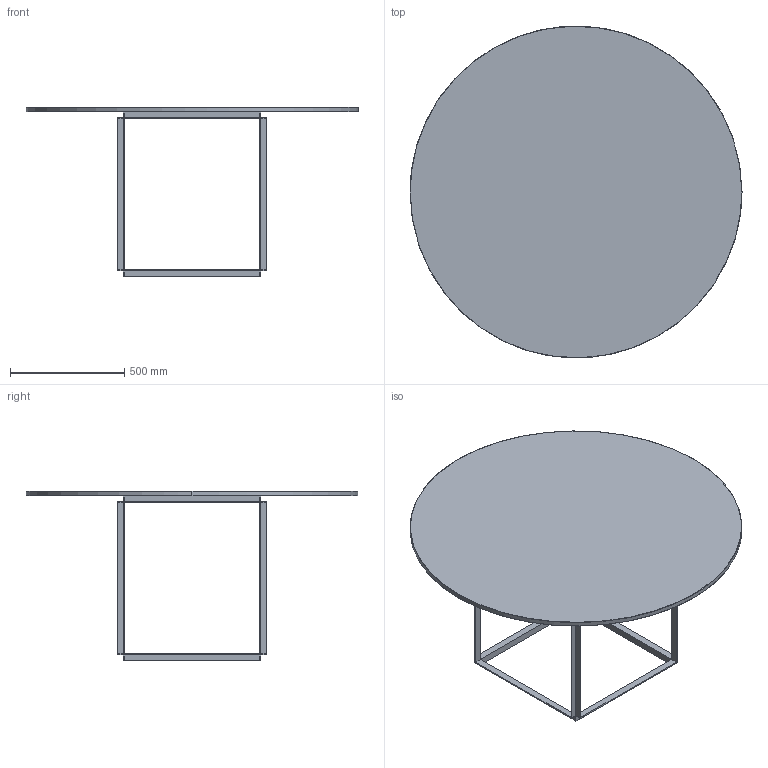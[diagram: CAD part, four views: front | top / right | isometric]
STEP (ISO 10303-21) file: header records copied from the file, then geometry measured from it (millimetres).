
FILE_DESCRIPTION(/* description */ (''),/* implementation_level */ '2;1');
FILE_NAME(/* name */ 'Florence Dining Table Ø145',/* time_stamp */ '2020-08-29T22:19:30+02:00',/* author */ (''),/* organization */ (''),/* preprocessor_version */ 'ST-DEVELOPER v15',/* originating_system */ '',/* authorisation */ '');
FILE_SCHEMA (('AUTOMOTIVE_DESIGN'));
Length unit declared in the file: millimetre
Products named in the file (1): Document
Bounding box: 1450 x 1448.61 x 740 mm (x, y, z)
Volume: 35121699.3 mm3; surface area: 4278338.1 mm2
Topology: 2 solids, 2 shells, 112 faces, 247 edges, 129 vertices
Faces by surface type: plane 98, bspline 14
Entity records: 3101 total; most frequent: CARTESIAN_POINT 1334, ORIENTED_EDGE 492, EDGE_CURVE 246, B_SPLINE_CURVE_WITH_KNOTS 216, VERTEX_POINT 128, EDGE_LOOP 120, ADVANCED_FACE 112, FACE_OUTER_BOUND 112
